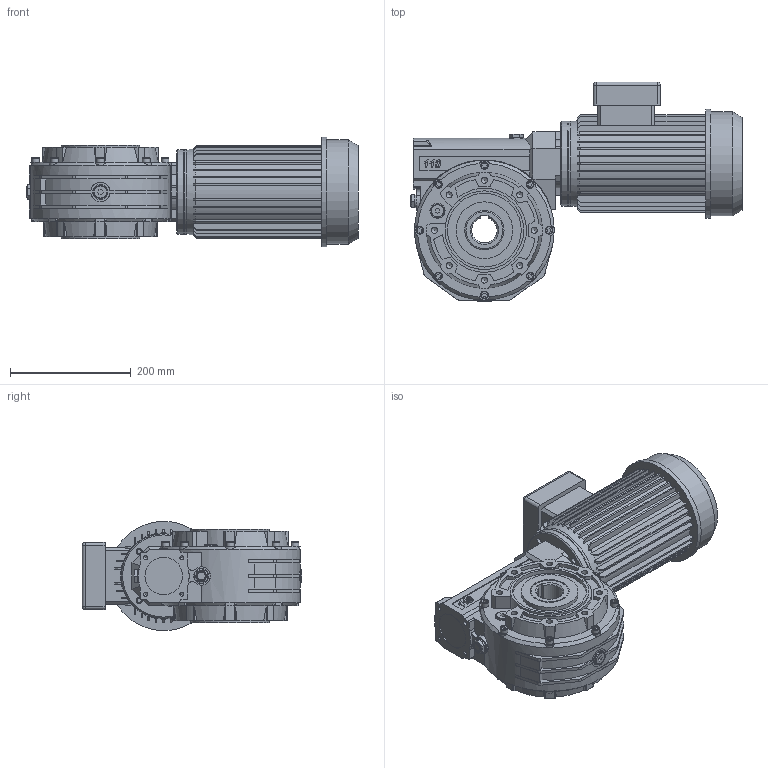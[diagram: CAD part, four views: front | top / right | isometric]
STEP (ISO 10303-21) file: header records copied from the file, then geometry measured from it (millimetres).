
FILE_DESCRIPTION( ( 'Unknown' ), '1' );
FILE_NAME( 'E:/services/configuratordownloads/customers/HYDROMEC/VSF/download/C159DA5816FF834B0684597D9224B0/STEP/C159DA5816FF834B0684597D9224B0.3d.stp', 'Unknown', ( 'Unknown' ), ( 'Unknown' ), 'PSStep 10.1', 'Unknown', ' ' );
FILE_SCHEMA( ( 'AUTOMOTIVE_DESIGN { 1 0 10303 214 1 1 1 1 }' ) );
Length unit declared in the file: millimetre
Products named in the file (1): 1108800N
Bounding box: 549 x 363.5 x 181 mm (x, y, z)
Volume: 12361297.2 mm3; surface area: 658191.5 mm2
Topology: 1 solids, 10 shells, 1131 faces, 3034 edges, 1991 vertices
Faces by surface type: plane 641, cylinder 365, cone 82, extrusion 16, torus 13, bspline 8, sphere 6
Full cylindrical faces by diameter (mm): 1.5 x1, 4.917 x6, 6.647 x4, 6.8 x8, 10 x4, 10.106 x16, 12.8 x8, 13 x1, 18 x1, 21 x1, 21.5 x1, 22 x2, 25 x4, 45 x1, 62 x2, 65 x2, 85 x1, 93.5 x1, 93.8 x1, 94 x1, 122 x2, 130 x2, 138 x1, 140 x2, 172 x1, 181 x1, 231 x1
Entity records: 47052 total; most frequent: CARTESIAN_POINT 8188, DIRECTION 5737, ORIENTED_EDGE 5650, EDGE_CURVE 2825, AXIS2_PLACEMENT_3D 2038, VERTEX_POINT 1938, VECTOR 1661, PRESENTATION_STYLE_ASSIGNMENT 1660
